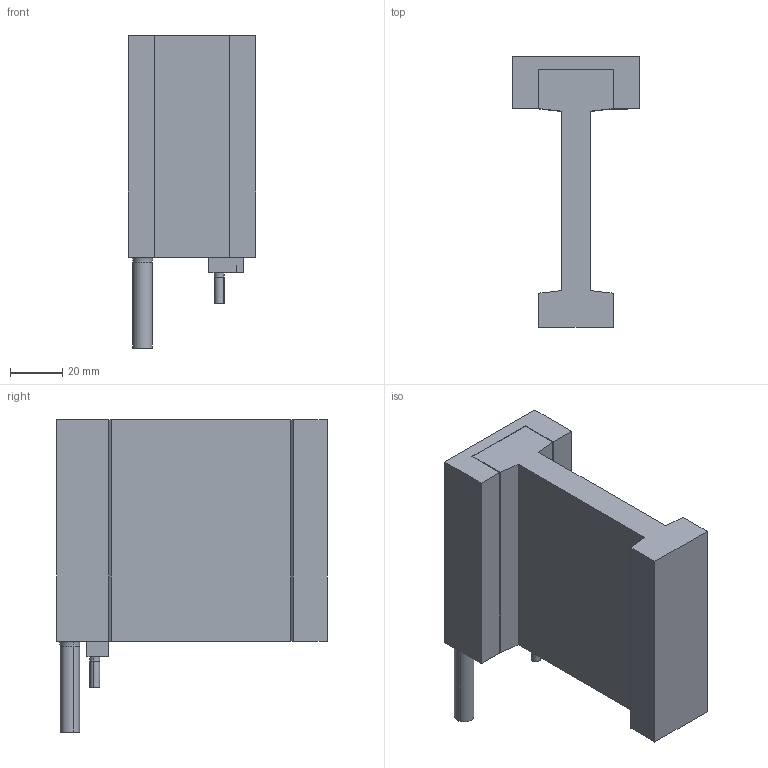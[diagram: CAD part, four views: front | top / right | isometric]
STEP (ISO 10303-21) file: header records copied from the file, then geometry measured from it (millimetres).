
FILE_DESCRIPTION (( 'STEP AP214' ), '1' );
FILE_NAME ('DX65F-C1.step', '2022-09-22T03:37:20', ( '' ), ( '' ), 'SwSTEP 2.0', 'SolidWorks 2020', '' );
FILE_SCHEMA (( 'AUTOMOTIVE_DESIGN' ));
Length unit declared in the file: millimetre
Products named in the file (1): DX65F-C1
Bounding box: 49 x 104 x 120 mm (x, y, z)
Volume: 183621.6 mm3; surface area: 46925.5 mm2
Topology: 7 solids, 7 shells, 150 faces, 340 edges, 205 vertices
Faces by surface type: plane 80, cylinder 40, cone 22, torus 8
Entity records: 5870 total; most frequent: CARTESIAN_POINT 750, DIRECTION 734, ORIENTED_EDGE 652, EDGE_CURVE 326, AXIS2_PLACEMENT_3D 261, LINE 212, VECTOR 212, VERTEX_POINT 205
